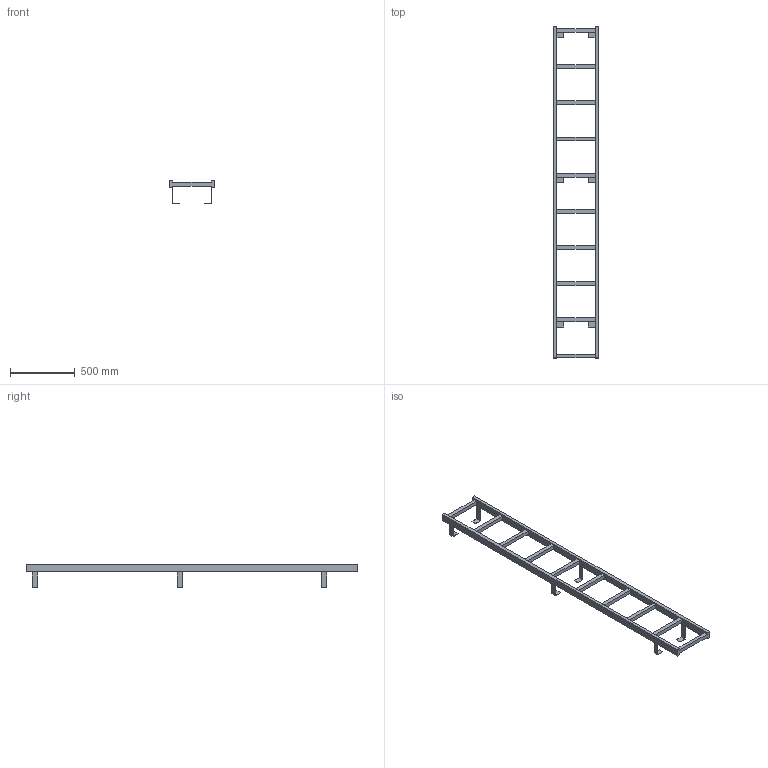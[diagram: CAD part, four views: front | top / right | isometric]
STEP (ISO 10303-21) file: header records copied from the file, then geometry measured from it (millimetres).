
FILE_DESCRIPTION((''),'2;1');
FILE_NAME('017_000109','2017-06-12T',('set'),('HUBER SE'),'PRO/ENGINEER BY PARAMETRIC TECHNOLOGY CORPORATION, 2015280','PRO/ENGINEER BY PARAMETRIC TECHNOLOGY CORPORATION, 2015280','');
FILE_SCHEMA(('CONFIG_CONTROL_DESIGN'));
Length unit declared in the file: millimetre
Products named in the file (1): 017_000109
Bounding box: 350 x 2570 x 178.5 mm (x, y, z)
Volume: 10121940 mm3; surface area: 1279892 mm2
Topology: 1 solids, 1 shells, 98 faces, 389 edges, 287 vertices
Faces by surface type: plane 98
Entity records: 3906 total; most frequent: CARTESIAN_POINT 825, ORIENTED_EDGE 576, DIRECTION 560, VECTOR 342, LINE 342, EDGE_CURVE 288, VERTEX_POINT 186, EDGE_LOOP 110
